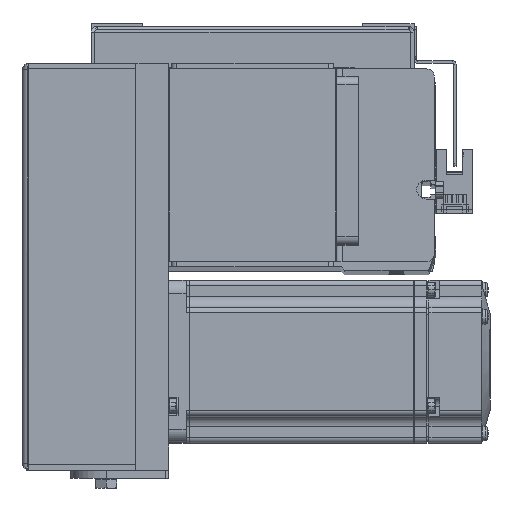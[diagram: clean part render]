
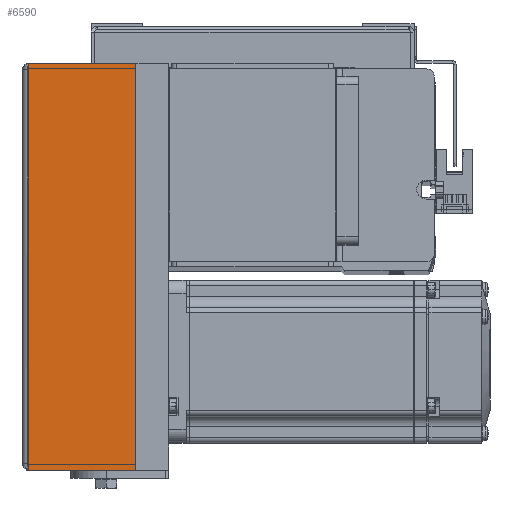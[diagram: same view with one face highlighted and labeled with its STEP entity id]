
A CAD part, top view. The second image highlights one B-rep face of the part: STEP entity #6590.
In plain terms, the highlighted planar face has unit normal (0, 0, 1) as drawn and (0, -1, 0) by its records, which use the part's own axes.
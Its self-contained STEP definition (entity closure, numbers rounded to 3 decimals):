
#546 = ORIENTED_EDGE ( 'NONE', *, *, #3416, .F. ) ;
#559 = VERTEX_POINT ( 'NONE', #17545 ) ;
#644 = FACE_OUTER_BOUND ( 'NONE', #2459, .T. ) ;
#1637 = CARTESIAN_POINT ( 'NONE',  ( 75., -36., 51.5 ) ) ;
#1694 = LINE ( 'NONE', #3816, #19012 ) ;
#1917 = CARTESIAN_POINT ( 'NONE',  ( 75., -36., 51.5 ) ) ;
#2459 = EDGE_LOOP ( 'NONE', ( #5501, #23133, #30626, #546 ) ) ;
#3416 = EDGE_CURVE ( 'NONE', #31312, #18690, #18998, .T. ) ;
#3445 = LINE ( 'NONE', #29531, #7604 ) ;
#3816 = CARTESIAN_POINT ( 'NONE',  ( -75., -36., 51.5 ) ) ;
#4120 = AXIS2_PLACEMENT_3D ( 'NONE', #12013, #29998, #23687 ) ;
#5501 = ORIENTED_EDGE ( 'NONE', *, *, #19312, .F. ) ;
#6590 = ADVANCED_FACE ( 'NONE', ( #644 ), #35192, .F. ) ;
#7604 = VECTOR ( 'NONE', #12120, 1000. ) ;
#10493 = CARTESIAN_POINT ( 'NONE',  ( 75., -36., 51.5 ) ) ;
#11565 = DIRECTION ( 'NONE',  ( 1., 0., 0. ) ) ;
#12013 = CARTESIAN_POINT ( 'NONE',  ( 0., -36., 52. ) ) ;
#12120 = DIRECTION ( 'NONE',  ( 1., 0., 0. ) ) ;
#14488 = EDGE_CURVE ( 'NONE', #559, #18690, #3445, .T. ) ;
#17545 = CARTESIAN_POINT ( 'NONE',  ( -75., -36., 12. ) ) ;
#18690 = VERTEX_POINT ( 'NONE', #34148 ) ;
#18998 = LINE ( 'NONE', #1917, #30306 ) ;
#19012 = VECTOR ( 'NONE', #21877, 1000. ) ;
#19312 = EDGE_CURVE ( 'NONE', #36089, #31312, #25903, .T. ) ;
#21877 = DIRECTION ( 'NONE',  ( 0., 0., -1. ) ) ;
#23133 = ORIENTED_EDGE ( 'NONE', *, *, #26196, .T. ) ;
#23687 = DIRECTION ( 'NONE',  ( 0., 0., -1. ) ) ;
#25903 = LINE ( 'NONE', #10493, #32825 ) ;
#26196 = EDGE_CURVE ( 'NONE', #36089, #559, #1694, .T. ) ;
#29531 = CARTESIAN_POINT ( 'NONE',  ( 0., -36., 12. ) ) ;
#29998 = DIRECTION ( 'NONE',  ( 0., 1., 0. ) ) ;
#30306 = VECTOR ( 'NONE', #33783, 1000. ) ;
#30409 = CARTESIAN_POINT ( 'NONE',  ( -75., -36., 51.5 ) ) ;
#30626 = ORIENTED_EDGE ( 'NONE', *, *, #14488, .T. ) ;
#31312 = VERTEX_POINT ( 'NONE', #1637 ) ;
#32825 = VECTOR ( 'NONE', #11565, 1000. ) ;
#33783 = DIRECTION ( 'NONE',  ( 0., 0., -1. ) ) ;
#34148 = CARTESIAN_POINT ( 'NONE',  ( 75., -36., 12. ) ) ;
#35192 = PLANE ( 'NONE',  #4120 ) ;
#36089 = VERTEX_POINT ( 'NONE', #30409 ) ;
